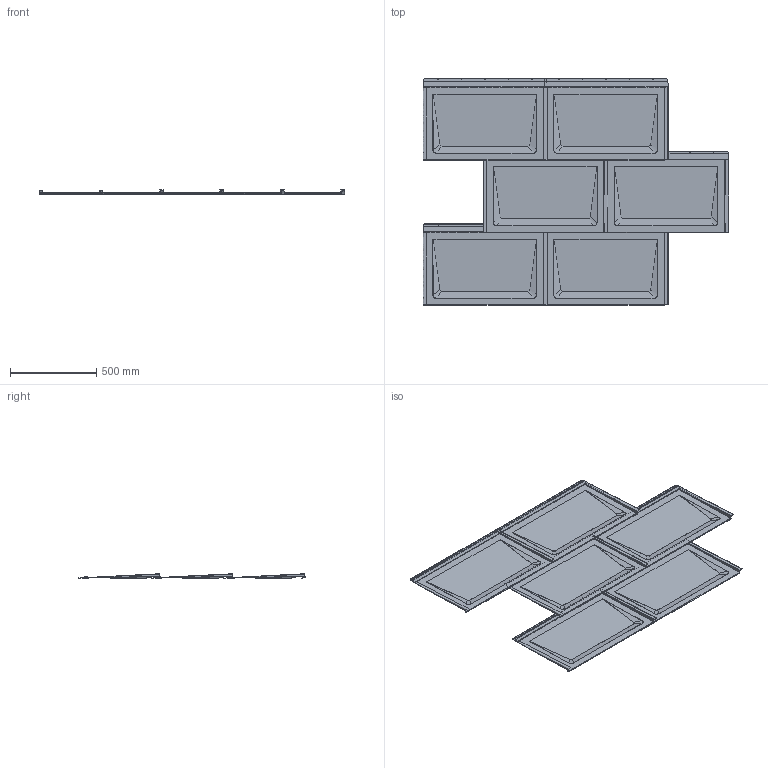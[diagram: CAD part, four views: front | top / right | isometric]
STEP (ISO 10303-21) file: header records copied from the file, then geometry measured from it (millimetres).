
FILE_DESCRIPTION(/* description */ (''),/* implementation_level */ '2;1');
FILE_NAME(/* name */ 'PREFA_~1',/* time_stamp */ '2020-07-21T12:40:54+02:00',/* author */ (''),/* organization */ (''),/* preprocessor_version */ 'ST-DEVELOPER v15',/* originating_system */ '',/* authorisation */ '');
FILE_SCHEMA (('AUTOMOTIVE_DESIGN'));
Length unit declared in the file: millimetre
Products named in the file (1): Document
Bounding box: 1767.8 x 1311.68 x 26.15 mm (x, y, z)
Surface area: 2497885.8 mm2 (no closed solid volume)
Topology: 0 solids, 252 shells, 252 faces, 1198 edges, 1184 vertices
Faces by surface type: bspline 180, plane 72
Entity records: 19421 total; most frequent: CARTESIAN_POINT 13037, ORIENTED_EDGE 1164, EDGE_CURVE 1164, VERTEX_POINT 1164, B_SPLINE_CURVE_WITH_KNOTS 934, EDGE_LOOP 288, PRESENTATION_LAYER_ASSIGNMENT 262, SHELL_BASED_SURFACE_MODEL 252
